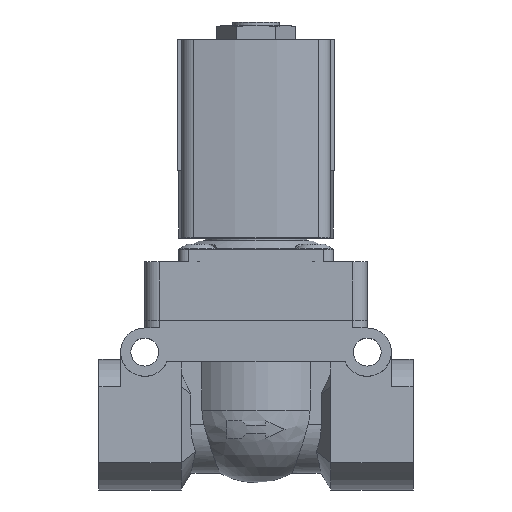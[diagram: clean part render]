
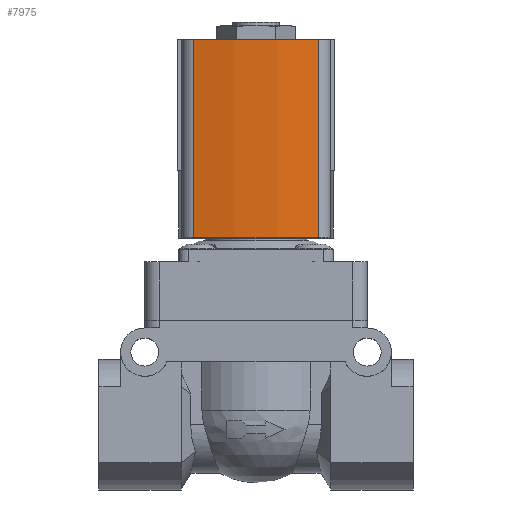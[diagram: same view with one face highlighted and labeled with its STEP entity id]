
A CAD part, top view. The second image highlights one B-rep face of the part: STEP entity #7975.
In plain terms, the highlighted cylindrical face has radius 60 mm (diameter 120 mm), a partial arc.
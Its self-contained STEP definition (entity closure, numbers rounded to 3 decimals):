
#111=CYLINDRICAL_SURFACE('',#10728,60.);
#919=LINE('',#15301,#1777);
#920=LINE('',#15305,#1778);
#1777=VECTOR('',#12715,1000.);
#1778=VECTOR('',#12720,1000.);
#3514=ORIENTED_EDGE('',*,*,#5217,.T.);
#3515=ORIENTED_EDGE('',*,*,#5218,.F.);
#3516=ORIENTED_EDGE('',*,*,#4503,.F.);
#3517=ORIENTED_EDGE('',*,*,#5216,.T.);
#4503=EDGE_CURVE('',#5563,#5564,#6269,.T.);
#5216=EDGE_CURVE('',#5563,#6069,#919,.T.);
#5217=EDGE_CURVE('',#6069,#6070,#6363,.T.);
#5218=EDGE_CURVE('',#5564,#6070,#920,.T.);
#5563=VERTEX_POINT('',#13955);
#5564=VERTEX_POINT('',#13957);
#6069=VERTEX_POINT('',#15300);
#6070=VERTEX_POINT('',#15304);
#6269=CIRCLE('',#10508,60.);
#6363=CIRCLE('',#10729,60.);
#6696=EDGE_LOOP('',(#3514,#3515,#3516,#3517));
#7184=FACE_BOUND('',#6696,.T.);
#7975=ADVANCED_FACE('',(#7184),#111,.T.);
#10508=AXIS2_PLACEMENT_3D('',#13956,#11656,#11657);
#10728=AXIS2_PLACEMENT_3D('',#15302,#12716,#12717);
#10729=AXIS2_PLACEMENT_3D('',#15303,#12718,#12719);
#11656=DIRECTION('',(0.,1.,0.));
#11657=DIRECTION('',(1.,0.,0.));
#12715=DIRECTION('',(0.,-1.,0.));
#12716=DIRECTION('',(0.,-1.,0.));
#12717=DIRECTION('',(0.,0.,-1.));
#12718=DIRECTION('',(0.,1.,0.));
#12719=DIRECTION('',(1.,0.,0.));
#12720=DIRECTION('',(0.,-1.,0.));
#13955=CARTESIAN_POINT('',(19.078,15.,12.986));
#13956=CARTESIAN_POINT('',(-39.5,15.,0.));
#13957=CARTESIAN_POINT('',(19.078,15.,-12.986));
#15300=CARTESIAN_POINT('',(19.078,-26.,12.986));
#15301=CARTESIAN_POINT('',(19.078,15.,12.986));
#15302=CARTESIAN_POINT('',(-39.5,15.,0.));
#15303=CARTESIAN_POINT('',(-39.5,-26.,0.));
#15304=CARTESIAN_POINT('',(19.078,-26.,-12.986));
#15305=CARTESIAN_POINT('',(19.078,15.,-12.986));
